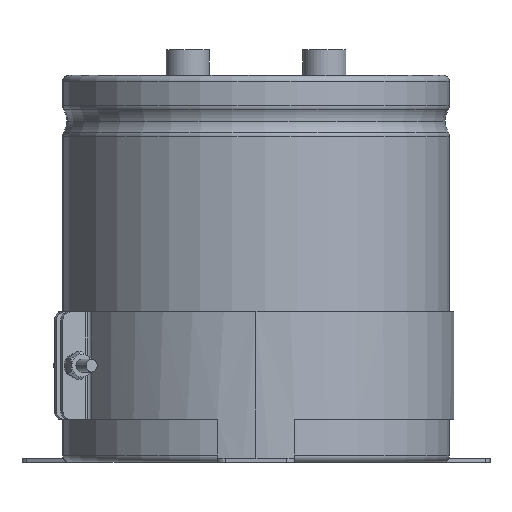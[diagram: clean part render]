
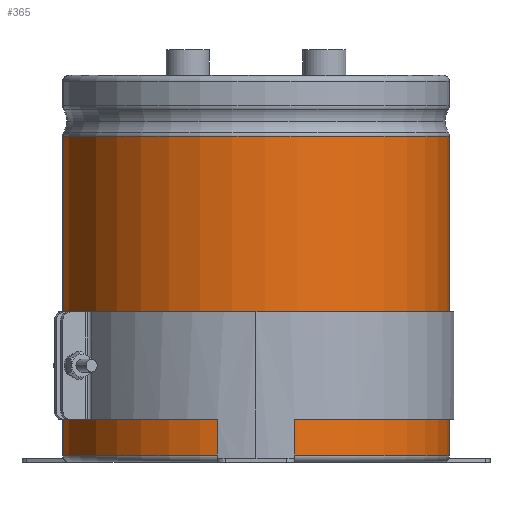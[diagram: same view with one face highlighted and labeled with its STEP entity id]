
A CAD part, left-side view. The second image highlights one B-rep face of the part: STEP entity #365.
In plain terms, the highlighted cylindrical face has radius 45 mm (diameter 90 mm), a partial arc.
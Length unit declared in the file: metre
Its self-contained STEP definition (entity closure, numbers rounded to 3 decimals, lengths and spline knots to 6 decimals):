
#365=ADVANCED_FACE('0:237',(#597),#598,.T.);
#597=FACE_OUTER_BOUND('',#1082,.T.);
#598=CYLINDRICAL_SURFACE('',#1083,0.045);
#1082=EDGE_LOOP('',(#2038,#2039,#2040,#2041));
#1083=AXIS2_PLACEMENT_3D('',#2042,#2043,#2044);
#2038=ORIENTED_EDGE('',*,*,#2995,.T.);
#2039=ORIENTED_EDGE('',*,*,#3004,.T.);
#2040=ORIENTED_EDGE('',*,*,#3006,.T.);
#2041=ORIENTED_EDGE('',*,*,#3007,.F.);
#2042=CARTESIAN_POINT('',(0.0,0.0,0.0));
#2043=DIRECTION('',(-0.0,0.0,1.0));
#2044=DIRECTION('',(0.0,1.0,0.0));
#2995=EDGE_CURVE('',#5626,#5634,#5635,.T.);
#3004=EDGE_CURVE('0:309',#5634,#5645,#5647,.T.);
#3006=EDGE_CURVE('0:312',#5645,#5649,#5650,.T.);
#3007=EDGE_CURVE('0:315',#5626,#5649,#5651,.T.);
#5626=VERTEX_POINT('',#6662);
#5634=VERTEX_POINT('',#6670);
#5635=LINE('',#6671,#6672);
#5645=VERTEX_POINT('',#6683);
#5647=CIRCLE('',#6685,0.045);
#5649=VERTEX_POINT('',#6687);
#5650=LINE('',#6688,#6689);
#5651=CIRCLE('',#6690,0.045);
#6662=CARTESIAN_POINT('',(0.,-0.045,0.0015));
#6670=CARTESIAN_POINT('',(0.,-0.045,0.0759));
#6671=CARTESIAN_POINT('',(0.,-0.045,0.0387));
#6672=VECTOR('',#8209,1.0);
#6683=CARTESIAN_POINT('',(-0.004,0.044822,0.0759));
#6685=AXIS2_PLACEMENT_3D('',#8226,#8227,#8228);
#6687=CARTESIAN_POINT('',(-0.004,0.044822,0.0015));
#6688=CARTESIAN_POINT('',(-0.004,0.044822,0.0759));
#6689=VECTOR('',#8229,0.001);
#6690=AXIS2_PLACEMENT_3D('',#8230,#8231,#8232);
#8209=DIRECTION('',(0.0,0.0,1.0));
#8226=CARTESIAN_POINT('',(0.0,0.0,0.0759));
#8227=DIRECTION('',(0.0,0.0,-1.0));
#8228=DIRECTION('',(0.0,1.0,0.0));
#8229=DIRECTION('',(0.0,0.0,-1.0));
#8230=CARTESIAN_POINT('',(0.0,0.0,0.0015));
#8231=DIRECTION('',(0.0,0.0,-1.0));
#8232=DIRECTION('',(0.0,1.0,0.0));
